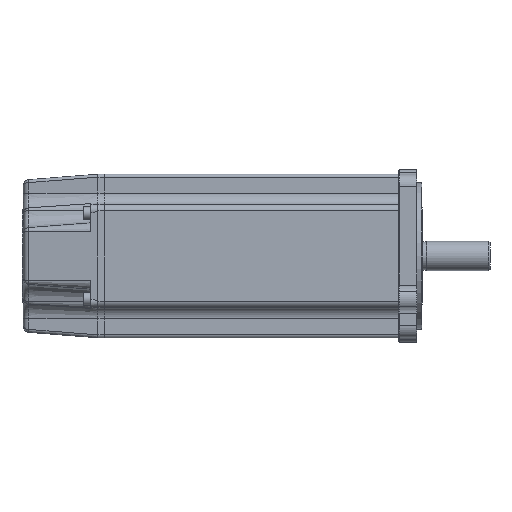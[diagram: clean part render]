
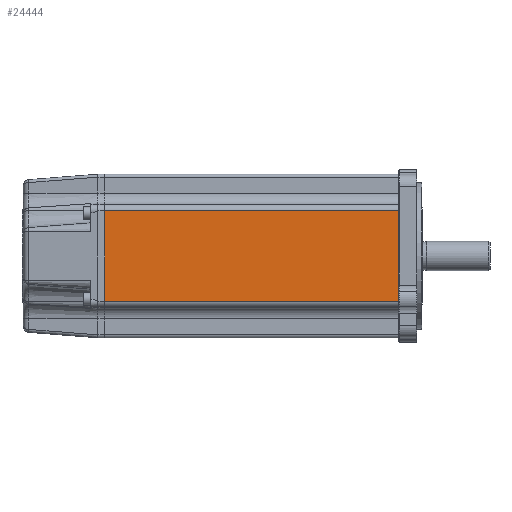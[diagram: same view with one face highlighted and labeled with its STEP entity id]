
A CAD part, front view. The second image highlights one B-rep face of the part: STEP entity #24444.
In plain terms, the highlighted planar face has unit normal (0, -1, 0).
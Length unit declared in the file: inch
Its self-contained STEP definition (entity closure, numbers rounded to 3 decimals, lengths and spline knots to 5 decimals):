
#1181 = LINE ( 'NONE', #15013, #12794 ) ;
#3748 = CARTESIAN_POINT ( 'NONE',  ( -0.39, -1.76, -0.979 ) ) ;
#5809 = DIRECTION ( 'NONE',  ( 0., 0., 1. ) ) ;
#11990 = EDGE_CURVE ( 'NONE', #49038, #29427, #30951, .T. ) ;
#12794 = VECTOR ( 'NONE', #5809, 39.37008 ) ;
#13966 = EDGE_CURVE ( 'NONE', #49038, #24503, #46740, .T. ) ;
#15013 = CARTESIAN_POINT ( 'NONE',  ( -0.39, -1.76, -1.76 ) ) ;
#16890 = CARTESIAN_POINT ( 'NONE',  ( -6.72, -1.76, -1.76 ) ) ;
#17191 = FACE_OUTER_BOUND ( 'NONE', #43374, .T. ) ;
#18995 = EDGE_CURVE ( 'NONE', #24503, #38001, #1181, .T. ) ;
#21276 = DIRECTION ( 'NONE',  ( 0., 0., 1. ) ) ;
#21331 = ORIENTED_EDGE ( 'NONE', *, *, #11990, .F. ) ;
#21652 = CARTESIAN_POINT ( 'NONE',  ( -6.72, -1.76, 0.979 ) ) ;
#24444 = ADVANCED_FACE ( 'NONE', ( #17191 ), #51522, .F. ) ;
#24499 = EDGE_CURVE ( 'NONE', #38001, #29427, #39648, .T. ) ;
#24503 = VERTEX_POINT ( 'NONE', #47715 ) ;
#25774 = CARTESIAN_POINT ( 'NONE',  ( -6.72, -1.76, -0.979 ) ) ;
#29427 = VERTEX_POINT ( 'NONE', #37924 ) ;
#29458 = VECTOR ( 'NONE', #56484, 39.37008 ) ;
#30951 = LINE ( 'NONE', #31495, #52702 ) ;
#31184 = AXIS2_PLACEMENT_3D ( 'NONE', #16890, #47329, #21276 ) ;
#31495 = CARTESIAN_POINT ( 'NONE',  ( -6.72, -1.76, -1.76 ) ) ;
#32141 = CARTESIAN_POINT ( 'NONE',  ( -0.39, -1.76, 0.979 ) ) ;
#34376 = DIRECTION ( 'NONE',  ( 1., 0., 0. ) ) ;
#35231 = VECTOR ( 'NONE', #34376, 39.37008 ) ;
#37924 = CARTESIAN_POINT ( 'NONE',  ( -6.72, -1.76, 0.979 ) ) ;
#38001 = VERTEX_POINT ( 'NONE', #32141 ) ;
#39648 = LINE ( 'NONE', #21652, #29458 ) ;
#41591 = ORIENTED_EDGE ( 'NONE', *, *, #24499, .T. ) ;
#43374 = EDGE_LOOP ( 'NONE', ( #56236, #41591, #21331, #45615 ) ) ;
#45615 = ORIENTED_EDGE ( 'NONE', *, *, #13966, .T. ) ;
#46740 = LINE ( 'NONE', #3748, #35231 ) ;
#47329 = DIRECTION ( 'NONE',  ( 0., 1., 0. ) ) ;
#47715 = CARTESIAN_POINT ( 'NONE',  ( -0.39, -1.76, -0.979 ) ) ;
#49038 = VERTEX_POINT ( 'NONE', #25774 ) ;
#51522 = PLANE ( 'NONE',  #31184 ) ;
#52702 = VECTOR ( 'NONE', #52941, 39.37008 ) ;
#52941 = DIRECTION ( 'NONE',  ( 0., 0., 1. ) ) ;
#56236 = ORIENTED_EDGE ( 'NONE', *, *, #18995, .T. ) ;
#56484 = DIRECTION ( 'NONE',  ( -1., 0., 0. ) ) ;
